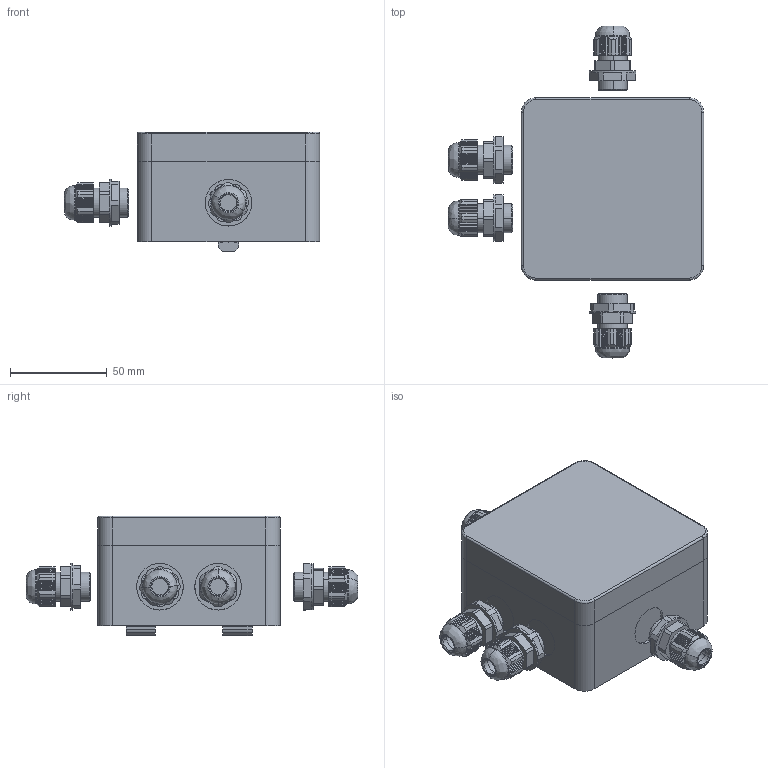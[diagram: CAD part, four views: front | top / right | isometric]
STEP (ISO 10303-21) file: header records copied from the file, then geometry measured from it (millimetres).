
FILE_DESCRIPTION (( 'STEP AP214' ), '1' );
FILE_NAME ('CA.SDS.06.STEP', '2017-06-29T06:43:34', ( 'PC WORKSTATION' ), ( '' ), 'SwSTEP 2.0', 'SolidWorks 2017', '' );
FILE_SCHEMA (( 'AUTOMOTIVE_DESIGN' ));
Length unit declared in the file: millimetre
Products named in the file (9): SB6C-01; CA.SDS.06; CA.GWP.4U; V.TCE.4X12; CEM.1142009; CEM.190009; MB22.949457; SDS.06; SB6C-02
Assembly tree (16 placements, depth 3):
  CA.SDS.06
    SDS.06
      SB6C-01
      SB6C-02
    MB22.949457
    CEM.190009  x4
    CEM.1142009  x4
    V.TCE.4X12  x2
    CA.GWP.4U  x2
Bounding box: 131.68 x 171.26 x 61.9 mm (x, y, z)
Volume: 301595.4 mm3; surface area: 113285.3 mm2
Topology: 15 solids, 15 shells, 831 faces, 2252 edges, 1484 vertices
Faces by surface type: plane 555, cylinder 232, bspline 24, cone 20
Entity records: 11226 total; most frequent: CARTESIAN_POINT 2362, ORIENTED_EDGE 1782, DIRECTION 1772, EDGE_CURVE 891, AXIS2_PLACEMENT_3D 637, VERTEX_POINT 587, LINE 498, VECTOR 498
